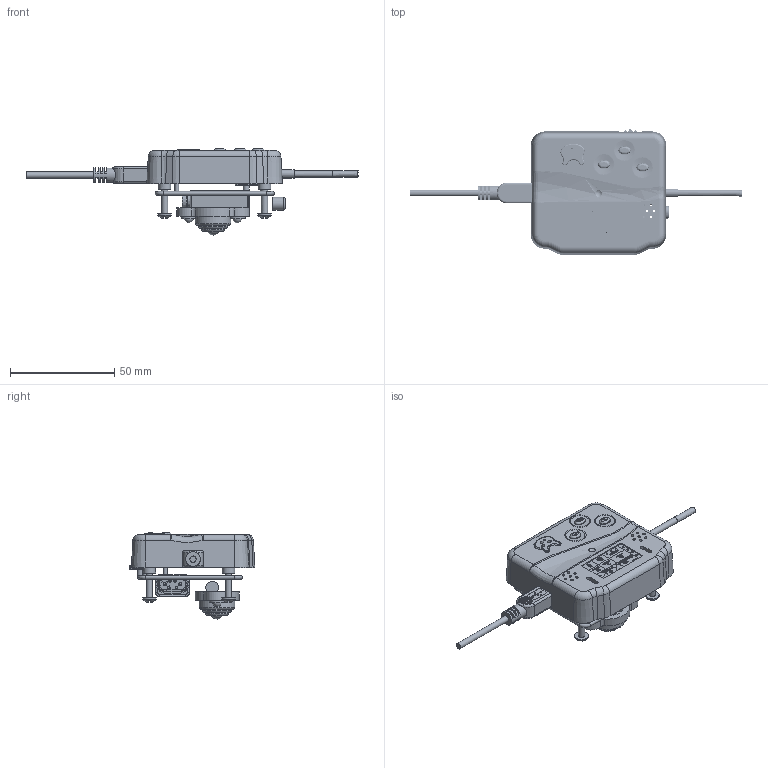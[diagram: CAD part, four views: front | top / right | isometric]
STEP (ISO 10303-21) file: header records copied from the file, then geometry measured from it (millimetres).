
FILE_DESCRIPTION(/* description */ (''),/* implementation_level */ '2;1');
FILE_NAME(/* name */ '样题7.stp',/* time_stamp */ '2021-12-05T11:54:04+08:00',/* author */ (''),/* organization */ (''),/* preprocessor_version */ 'ST-DEVELOPER v16',/* originating_system */ 'SIEMENS PLM Software NX 10.0',/* authorisation */ '');
FILE_SCHEMA (('AUTOMOTIVE_DESIGN { 1 0 10303 214 3 1 1 1 }'));
Products named in the file (26): 拨轮按键; 按键电路板; 固定柱02; 方向键右; 电源键; 方向键左; 电路板; 确认键; 按键; 固定柱01; 紧固螺钉02; 紧固螺钉01; 紧固螺钉03; 紧固螺钉04; 辅助镜头01; 辅助镜头02; 主镜头; 可伸缩的组合镜头; 行车记录仪屏幕; 耳机线; 保护套02; 前盖; USB线; 方形9V电池; 接线柱; 样题7
Assembly tree (25 placements, depth 2):
  样题7
    接线柱
    方形9V电池
    USB线
    前盖
    保护套02
    耳机线
    行车记录仪屏幕
    可伸缩的组合镜头
    主镜头
    辅助镜头02
    辅助镜头01
    紧固螺钉04
    紧固螺钉03
    紧固螺钉01
    紧固螺钉02
    固定柱01
    按键
    确认键
    电路板
    方向键左
    电源键
    方向键右
    固定柱02
    按键电路板
    拨轮按键
Bounding box: 159.44 x 60.33 x 41.4 mm (x, y, z)
Volume: 25862 mm3; surface area: 34174.6 mm2
Topology: 25 solids, 28 shells, 3041 faces, 8033 edges, 5311 vertices
Faces by surface type: plane 1948, cylinder 787, extrusion 126, torus 81, bspline 54, cone 32, sphere 13
Full cylindrical faces by diameter (mm): 0.032 x1, 0.116 x1, 0.197 x1, 0.336 x1, 0.523 x1, 0.543 x1, 0.878 x1, 1.2 x18, 1.56 x2, 1.705 x1, 1.825 x2, 1.932 x1, 2.91 x1, 3 x82, 3.116 x1, 3.4 x4, 3.5 x2, 3.615 x1, 4 x1, 4.363 x1, 4.462 x2, 6 x4, 6.306 x1, 6.6 x4, 6.694 x1, 7 x1, 11.156 x2, 14.131 x1, 15.619 x1, 17.106 x1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
Entity records: 131172 total; most frequent: CARTESIAN_POINT 56822, ORIENTED_EDGE 15276, DIRECTION 14050, EDGE_CURVE 7638, VECTOR 5438, LINE 5312, VERTEX_POINT 5109, AXIS2_PLACEMENT_3D 4306
